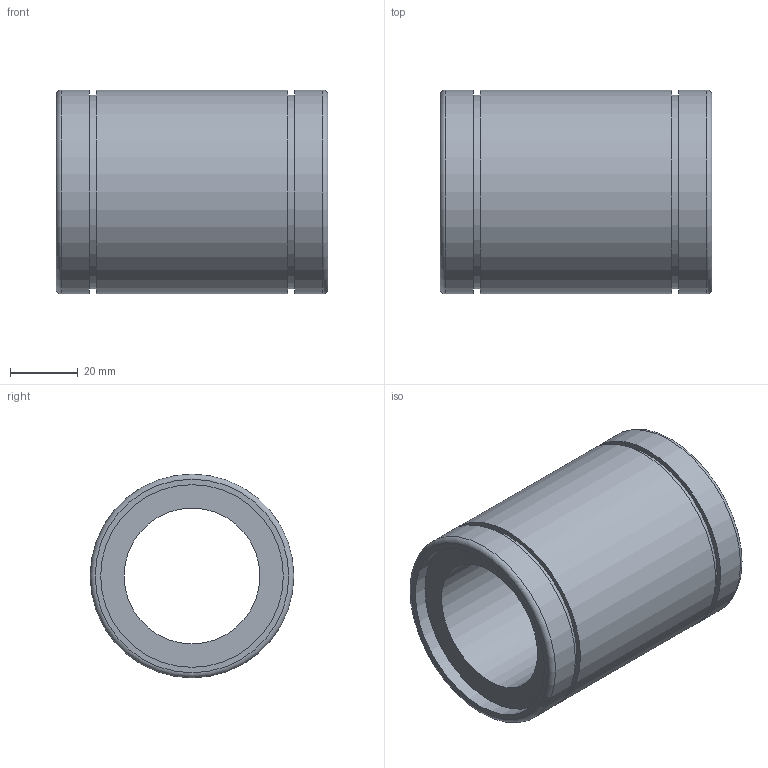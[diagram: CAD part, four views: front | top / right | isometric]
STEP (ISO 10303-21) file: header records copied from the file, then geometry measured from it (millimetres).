
FILE_DESCRIPTION( ( 'Unknown' ), '1' );
FILE_NAME( 'D:/累诀/己绕皋墨飘肺葱胶/11-04-06_档搁累己/01_府聪绢何教/LM/LM40.stp', 'Unknown', ( 'Unknown' ), ( 'Unknown' ), 'PSStep 11.0', 'Unknown', ' ' );
FILE_SCHEMA( ( 'AUTOMOTIVE_DESIGN { 1 0 10303 214 1 1 1 1 }' ) );
Length unit declared in the file: millimetre
Products named in the file (1): 1
Bounding box: 80 x 60 x 60 mm (x, y, z)
Volume: 116192.7 mm3; surface area: 29439.6 mm2
Topology: 1 solids, 1 shells, 18 faces, 30 edges, 20 vertices
Faces by surface type: plane 8, cylinder 8, torus 2
Full cylindrical faces by diameter (mm): 40 x1, 53.8 x2, 57 x2, 60 x3
Entity records: 528 total; most frequent: DIRECTION 74, CARTESIAN_POINT 55, AXIS2_PLACEMENT_3D 37, EDGE_LOOP 36, ORIENTED_EDGE 36, FACE_OUTER_BOUND 28, STYLED_ITEM 18, PRESENTATION_STYLE_ASSIGNMENT 18
